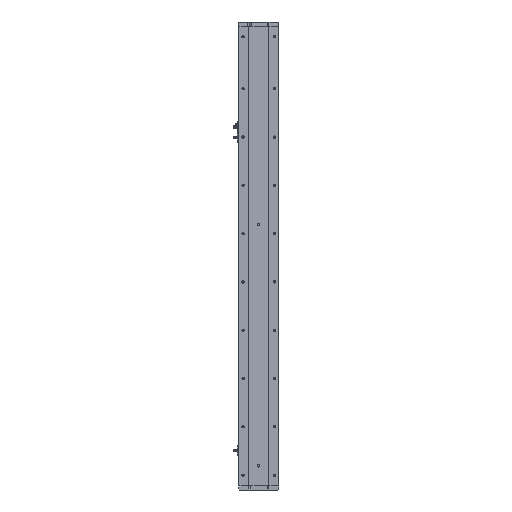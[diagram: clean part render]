
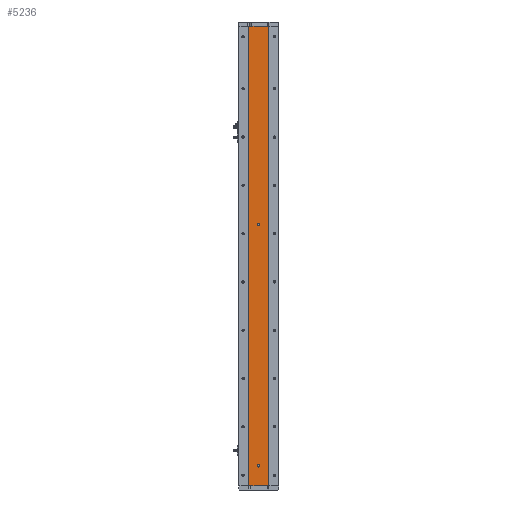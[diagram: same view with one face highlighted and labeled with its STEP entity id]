
A CAD part, left-side view. The second image highlights one B-rep face of the part: STEP entity #5236.
In plain terms, the highlighted planar face has unit normal (-1, 0, 0).
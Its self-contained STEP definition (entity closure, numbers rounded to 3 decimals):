
#189 = DIRECTION ( 'NONE',  ( -1., 0., 0. ) ) ;
#1180 = AXIS2_PLACEMENT_3D ( 'NONE', #26513, #7037, #29753 ) ;
#1659 = DIRECTION ( 'NONE',  ( -1., 0., 0. ) ) ;
#1684 = VERTEX_POINT ( 'NONE', #35600 ) ;
#1973 = CIRCLE ( 'NONE', #4671, 3. ) ;
#2562 = EDGE_CURVE ( 'NONE', #31999, #1684, #8010, .T. ) ;
#2779 = EDGE_CURVE ( 'NONE', #1684, #31999, #1973, .T. ) ;
#2847 = ORIENTED_EDGE ( 'NONE', *, *, #11738, .T. ) ;
#3124 = DIRECTION ( 'NONE',  ( 0., -1., 0. ) ) ;
#4671 = AXIS2_PLACEMENT_3D ( 'NONE', #21064, #1659, #24361 ) ;
#5236 = ADVANCED_FACE ( 'NONE', ( #24005, #6711, #41209 ), #33076, .F. ) ;
#5405 = EDGE_LOOP ( 'NONE', ( #27708, #39609 ) ) ;
#6711 = FACE_BOUND ( 'NONE', #5405, .T. ) ;
#6992 = AXIS2_PLACEMENT_3D ( 'NONE', #13801, #36501, #17089 ) ;
#7037 = DIRECTION ( 'NONE',  ( -1., 0., 0. ) ) ;
#7377 = CARTESIAN_POINT ( 'NONE',  ( -18.926, -24.785, 1143. ) ) ;
#7413 = DIRECTION ( 'NONE',  ( 0., 0., -1. ) ) ;
#8010 = CIRCLE ( 'NONE', #1180, 3. ) ;
#9526 = CARTESIAN_POINT ( 'NONE',  ( -18.926, 24.785, 0. ) ) ;
#9657 = CARTESIAN_POINT ( 'NONE',  ( -18.926, 0., 647. ) ) ;
#9846 = EDGE_CURVE ( 'NONE', #21890, #29777, #41103, .T. ) ;
#9926 = CARTESIAN_POINT ( 'NONE',  ( -18.926, 24.785, 1143. ) ) ;
#10527 = CARTESIAN_POINT ( 'NONE',  ( -18.926, 24.785, 1143. ) ) ;
#11738 = EDGE_CURVE ( 'NONE', #21415, #16243, #33762, .T. ) ;
#12296 = CARTESIAN_POINT ( 'NONE',  ( -18.926, 0., 650. ) ) ;
#13801 = CARTESIAN_POINT ( 'NONE',  ( -18.926, 24.785, 1143. ) ) ;
#14101 = VECTOR ( 'NONE', #7413, 1000. ) ;
#14964 = EDGE_CURVE ( 'NONE', #17721, #34416, #36356, .T. ) ;
#15109 = LINE ( 'NONE', #10527, #14101 ) ;
#15579 = DIRECTION ( 'NONE',  ( 0., 0., 1. ) ) ;
#16155 = CARTESIAN_POINT ( 'NONE',  ( -18.926, -24.785, 0. ) ) ;
#16243 = VERTEX_POINT ( 'NONE', #16155 ) ;
#16573 = VECTOR ( 'NONE', #36099, 1000. ) ;
#16701 = CARTESIAN_POINT ( 'NONE',  ( -18.926, 24.785, 0. ) ) ;
#17089 = DIRECTION ( 'NONE',  ( 0., 0., -1. ) ) ;
#17637 = ORIENTED_EDGE ( 'NONE', *, *, #27163, .T. ) ;
#17653 = AXIS2_PLACEMENT_3D ( 'NONE', #19598, #189, #22875 ) ;
#17721 = VERTEX_POINT ( 'NONE', #24083 ) ;
#19183 = CARTESIAN_POINT ( 'NONE',  ( -18.926, 0., 47. ) ) ;
#19598 = CARTESIAN_POINT ( 'NONE',  ( -18.926, 0., 650. ) ) ;
#20310 = CIRCLE ( 'NONE', #27260, 3. ) ;
#21064 = CARTESIAN_POINT ( 'NONE',  ( -18.926, 0., 50. ) ) ;
#21415 = VERTEX_POINT ( 'NONE', #9526 ) ;
#21430 = EDGE_LOOP ( 'NONE', ( #34922, #38045 ) ) ;
#21890 = VERTEX_POINT ( 'NONE', #9926 ) ;
#22408 = CARTESIAN_POINT ( 'NONE',  ( -18.926, 24.785, 1143. ) ) ;
#22875 = DIRECTION ( 'NONE',  ( 0., 0., 1. ) ) ;
#24005 = FACE_BOUND ( 'NONE', #21430, .T. ) ;
#24083 = CARTESIAN_POINT ( 'NONE',  ( -18.926, 0., 653. ) ) ;
#24361 = DIRECTION ( 'NONE',  ( 0., 0., 1. ) ) ;
#26513 = CARTESIAN_POINT ( 'NONE',  ( -18.926, 0., 50. ) ) ;
#26838 = DIRECTION ( 'NONE',  ( 0., 0., -1. ) ) ;
#27163 = EDGE_CURVE ( 'NONE', #21890, #21415, #15109, .T. ) ;
#27260 = AXIS2_PLACEMENT_3D ( 'NONE', #12296, #34996, #15579 ) ;
#27662 = EDGE_LOOP ( 'NONE', ( #2847, #32535, #34823, #17637 ) ) ;
#27708 = ORIENTED_EDGE ( 'NONE', *, *, #2779, .F. ) ;
#29753 = DIRECTION ( 'NONE',  ( 0., 0., 1. ) ) ;
#29777 = VERTEX_POINT ( 'NONE', #42034 ) ;
#31065 = LINE ( 'NONE', #7377, #39264 ) ;
#31999 = VERTEX_POINT ( 'NONE', #19183 ) ;
#32508 = VECTOR ( 'NONE', #3124, 1000. ) ;
#32535 = ORIENTED_EDGE ( 'NONE', *, *, #32728, .F. ) ;
#32728 = EDGE_CURVE ( 'NONE', #29777, #16243, #31065, .T. ) ;
#33076 = PLANE ( 'NONE',  #6992 ) ;
#33371 = EDGE_CURVE ( 'NONE', #34416, #17721, #20310, .T. ) ;
#33762 = LINE ( 'NONE', #16701, #16573 ) ;
#34416 = VERTEX_POINT ( 'NONE', #9657 ) ;
#34823 = ORIENTED_EDGE ( 'NONE', *, *, #9846, .F. ) ;
#34922 = ORIENTED_EDGE ( 'NONE', *, *, #14964, .F. ) ;
#34996 = DIRECTION ( 'NONE',  ( -1., 0., 0. ) ) ;
#35600 = CARTESIAN_POINT ( 'NONE',  ( -18.926, 0., 53. ) ) ;
#36099 = DIRECTION ( 'NONE',  ( 0., -1., 0. ) ) ;
#36356 = CIRCLE ( 'NONE', #17653, 3. ) ;
#36501 = DIRECTION ( 'NONE',  ( 1., 0., 0. ) ) ;
#38045 = ORIENTED_EDGE ( 'NONE', *, *, #33371, .F. ) ;
#39264 = VECTOR ( 'NONE', #26838, 1000. ) ;
#39609 = ORIENTED_EDGE ( 'NONE', *, *, #2562, .F. ) ;
#41103 = LINE ( 'NONE', #22408, #32508 ) ;
#41209 = FACE_OUTER_BOUND ( 'NONE', #27662, .T. ) ;
#42034 = CARTESIAN_POINT ( 'NONE',  ( -18.926, -24.785, 1143. ) ) ;
